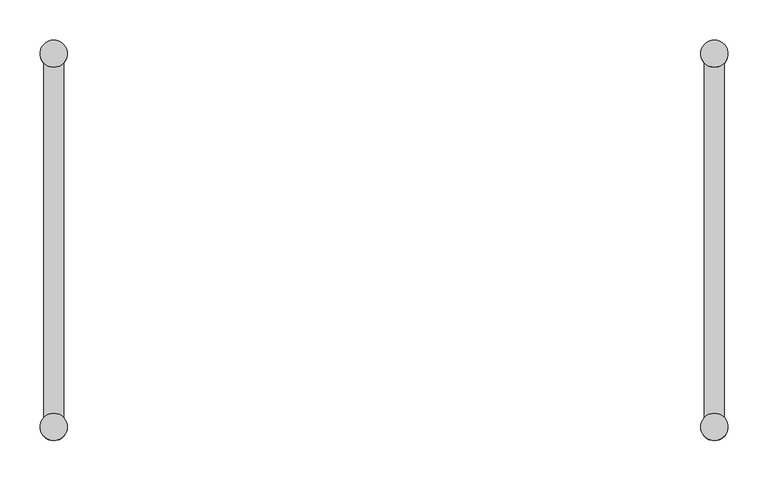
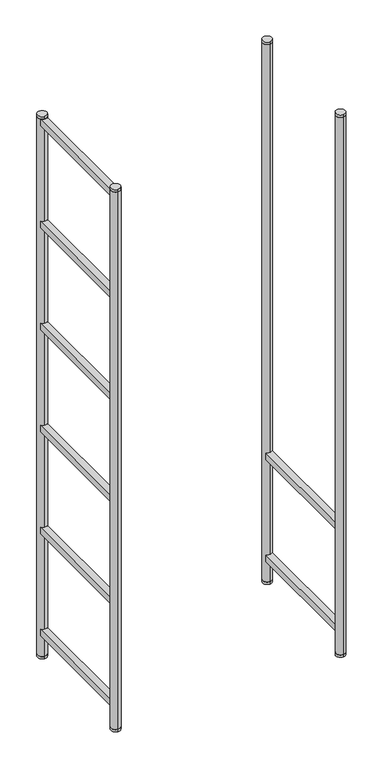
"""IFC4 building model written with IfcOpenShell, lengths in millimetres: furniture geometry, MAKR_TEMPLATE_800mmL : MAKR_TEMPLATE_800mmL."""

from ifc_helpers import new_model, si_unit, point, frame, frame_2d, origin, origin_with_axes, place, context, project, spatial, polyline, circle_curve, trimmed, segment, composite_curve, outline, extrude, source, transform, mapped, element, save


def furniture_79b718d3(model_context):
    return source(origin(), model_context, "Body", "SweptSolid", [
        extrude(outline(composite_curve([segment(polyline([(425.0, 221.4782814), (425.0, -221.4782814)]), True, "CONTINUOUS"), segment(trimmed(circle_curve(frame_2d((412.5, -233.0)), 17.0), [point((425.0, -221.4782814))], [point((400.0, -221.4782814))], True, "CARTESIAN"), True, "CONTINUOUS"), segment(polyline([(400.0, -221.4782814), (400.0, 221.4782814)]), True, "CONTINUOUS"), segment(trimmed(circle_curve(frame_2d((412.5, 233.0)), 17.0), [point((400.0, 221.4782814))], [point((425.0, 221.4782814))], True, "CARTESIAN"), True, "CONTINUOUS")], self_intersect=False)), frame((0.0, 0.0, 484.0), z_axis=(0.0, 0.0, 1.0), x_axis=(1.0, 0.0, 0.0)), (0.0, 0.0, 1.0), 25.0),
        extrude(outline(composite_curve([segment(polyline([(425.0, 221.4782814), (425.0, -221.4782814)]), True, "CONTINUOUS"), segment(trimmed(circle_curve(frame_2d((412.5, -233.0)), 17.0), [point((425.0, -221.4782814))], [point((400.0, -221.4782814))], True, "CARTESIAN"), True, "CONTINUOUS"), segment(polyline([(400.0, -221.4782814), (400.0, 221.4782814)]), True, "CONTINUOUS"), segment(trimmed(circle_curve(frame_2d((412.5, 233.0)), 17.0), [point((400.0, 221.4782814))], [point((425.0, 221.4782814))], True, "CARTESIAN"), True, "CONTINUOUS")], self_intersect=False)), frame((0.0, 0.0, 89.0), z_axis=(0.0, 0.0, 1.0), x_axis=(1.0, 0.0, 0.0)), (0.0, 0.0, 1.0), 25.0),
        extrude(outline(composite_curve([segment(trimmed(circle_curve(frame_2d((412.5, -233.0)), 17.0), [point((412.5, -216.0))], [point((412.5, -250.0))], False, "CARTESIAN"), True, "CONTINUOUS"), segment(trimmed(circle_curve(frame_2d((412.5, -233.0)), 17.0), [point((412.5, -250.0))], [point((412.5, -216.0))], False, "CARTESIAN"), True, "CONTINUOUS")], self_intersect=False)), frame((0.0, 0.0, 2091.0), z_axis=(0.0, 0.0, 1.0), x_axis=(1.0, 0.0, 0.0)), (0.0, 0.0, 1.0), 9.0),
        extrude(outline(composite_curve([segment(trimmed(circle_curve(frame_2d((412.5, -233.0)), 17.0), [point((412.5, -216.0))], [point((412.5, -250.0))], False, "CARTESIAN"), True, "CONTINUOUS"), segment(trimmed(circle_curve(frame_2d((412.5, -233.0)), 17.0), [point((412.5, -250.0))], [point((412.5, -216.0))], False, "CARTESIAN"), True, "CONTINUOUS")], self_intersect=False)), origin_with_axes(), (0.0, 0.0, 1.0), 9.0),
        extrude(outline(composite_curve([segment(trimmed(circle_curve(frame_2d((412.5, -233.0)), 17.0), [point((412.5, -216.0))], [point((412.5, -250.0))], False, "CARTESIAN"), True, "CONTINUOUS"), segment(trimmed(circle_curve(frame_2d((412.5, -233.0)), 17.0), [point((412.5, -250.0))], [point((412.5, -216.0))], False, "CARTESIAN"), True, "CONTINUOUS")], self_intersect=False)), frame((0.0, 0.0, 9.0), z_axis=(0.0, 0.0, 1.0), x_axis=(1.0, 0.0, 0.0)), (0.0, 0.0, 1.0), 2082.0),
        extrude(outline(composite_curve([segment(trimmed(circle_curve(frame_2d((412.5, 233.0)), 17.0), [point((412.5, 216.0))], [point((412.5, 250.0))], False, "CARTESIAN"), True, "CONTINUOUS"), segment(trimmed(circle_curve(frame_2d((412.5, 233.0)), 17.0), [point((412.5, 250.0))], [point((412.5, 216.0))], False, "CARTESIAN"), True, "CONTINUOUS")], self_intersect=False)), frame((0.0, 0.0, 2091.0), z_axis=(0.0, 0.0, 1.0), x_axis=(1.0, 0.0, 0.0)), (0.0, 0.0, 1.0), 9.0),
        extrude(outline(composite_curve([segment(trimmed(circle_curve(frame_2d((412.5, 233.0)), 17.0), [point((412.5, 216.0))], [point((412.5, 250.0))], False, "CARTESIAN"), True, "CONTINUOUS"), segment(trimmed(circle_curve(frame_2d((412.5, 233.0)), 17.0), [point((412.5, 250.0))], [point((412.5, 216.0))], False, "CARTESIAN"), True, "CONTINUOUS")], self_intersect=False)), origin_with_axes(), (0.0, 0.0, 1.0), 9.0),
        extrude(outline(composite_curve([segment(trimmed(circle_curve(frame_2d((412.5, 233.0)), 17.0), [point((412.5, 216.0))], [point((412.5, 250.0))], False, "CARTESIAN"), True, "CONTINUOUS"), segment(trimmed(circle_curve(frame_2d((412.5, 233.0)), 17.0), [point((412.5, 250.0))], [point((412.5, 216.0))], False, "CARTESIAN"), True, "CONTINUOUS")], self_intersect=False)), frame((0.0, 0.0, 9.0), z_axis=(0.0, 0.0, 1.0), x_axis=(1.0, 0.0, 0.0)), (0.0, 0.0, 1.0), 2082.0),
        extrude(outline(composite_curve([segment(trimmed(circle_curve(frame_2d((-412.5, 233.0)), 17.0), [point((-425.0, 221.4782814))], [point((-400.0, 221.4782814))], True, "CARTESIAN"), True, "CONTINUOUS"), segment(polyline([(-400.0, 221.4782814), (-400.0, -221.4782814)]), True, "CONTINUOUS"), segment(trimmed(circle_curve(frame_2d((-412.5, -233.0)), 17.0), [point((-400.0, -221.4782814))], [point((-425.0, -221.4782814))], True, "CARTESIAN"), True, "CONTINUOUS"), segment(polyline([(-425.0, -221.4782814), (-425.0, 221.4782814)]), True, "CONTINUOUS")], self_intersect=False)), frame((0.0, 0.0, 2064.0), z_axis=(0.0, 0.0, 1.0), x_axis=(1.0, 0.0, 0.0)), (0.0, 0.0, 1.0), 25.0),
        extrude(outline(composite_curve([segment(trimmed(circle_curve(frame_2d((-412.5, 233.0)), 17.0), [point((-425.0, 221.4782814))], [point((-400.0, 221.4782814))], True, "CARTESIAN"), True, "CONTINUOUS"), segment(polyline([(-400.0, 221.4782814), (-400.0, -221.4782814)]), True, "CONTINUOUS"), segment(trimmed(circle_curve(frame_2d((-412.5, -233.0)), 17.0), [point((-400.0, -221.4782814))], [point((-425.0, -221.4782814))], True, "CARTESIAN"), True, "CONTINUOUS"), segment(polyline([(-425.0, -221.4782814), (-425.0, 221.4782814)]), True, "CONTINUOUS")], self_intersect=False)), frame((0.0, 0.0, 1669.0), z_axis=(0.0, 0.0, 1.0), x_axis=(1.0, 0.0, 0.0)), (0.0, 0.0, 1.0), 25.0),
        extrude(outline(composite_curve([segment(trimmed(circle_curve(frame_2d((-412.5, 233.0)), 17.0), [point((-425.0, 221.4782814))], [point((-400.0, 221.4782814))], True, "CARTESIAN"), True, "CONTINUOUS"), segment(polyline([(-400.0, 221.4782814), (-400.0, -221.4782814)]), True, "CONTINUOUS"), segment(trimmed(circle_curve(frame_2d((-412.5, -233.0)), 17.0), [point((-400.0, -221.4782814))], [point((-425.0, -221.4782814))], True, "CARTESIAN"), True, "CONTINUOUS"), segment(polyline([(-425.0, -221.4782814), (-425.0, 221.4782814)]), True, "CONTINUOUS")], self_intersect=False)), frame((0.0, 0.0, 1274.0), z_axis=(0.0, 0.0, 1.0), x_axis=(1.0, 0.0, 0.0)), (0.0, 0.0, 1.0), 25.0),
        extrude(outline(composite_curve([segment(trimmed(circle_curve(frame_2d((-412.5, 233.0)), 17.0), [point((-425.0, 221.4782814))], [point((-400.0, 221.4782814))], True, "CARTESIAN"), True, "CONTINUOUS"), segment(polyline([(-400.0, 221.4782814), (-400.0, -221.4782814)]), True, "CONTINUOUS"), segment(trimmed(circle_curve(frame_2d((-412.5, -233.0)), 17.0), [point((-400.0, -221.4782814))], [point((-425.0, -221.4782814))], True, "CARTESIAN"), True, "CONTINUOUS"), segment(polyline([(-425.0, -221.4782814), (-425.0, 221.4782814)]), True, "CONTINUOUS")], self_intersect=False)), frame((0.0, 0.0, 879.0), z_axis=(0.0, 0.0, 1.0), x_axis=(1.0, 0.0, 0.0)), (0.0, 0.0, 1.0), 25.0),
        extrude(outline(composite_curve([segment(trimmed(circle_curve(frame_2d((-412.5, 233.0)), 17.0), [point((-425.0, 221.4782814))], [point((-400.0, 221.4782814))], True, "CARTESIAN"), True, "CONTINUOUS"), segment(polyline([(-400.0, 221.4782814), (-400.0, -221.4782814)]), True, "CONTINUOUS"), segment(trimmed(circle_curve(frame_2d((-412.5, -233.0)), 17.0), [point((-400.0, -221.4782814))], [point((-425.0, -221.4782814))], True, "CARTESIAN"), True, "CONTINUOUS"), segment(polyline([(-425.0, -221.4782814), (-425.0, 221.4782814)]), True, "CONTINUOUS")], self_intersect=False)), frame((0.0, 0.0, 484.0), z_axis=(0.0, 0.0, 1.0), x_axis=(1.0, 0.0, 0.0)), (0.0, 0.0, 1.0), 25.0),
        extrude(outline(composite_curve([segment(trimmed(circle_curve(frame_2d((-412.5, 233.0)), 17.0), [point((-425.0, 221.4782814))], [point((-400.0, 221.4782814))], True, "CARTESIAN"), True, "CONTINUOUS"), segment(polyline([(-400.0, 221.4782814), (-400.0, -221.4782814)]), True, "CONTINUOUS"), segment(trimmed(circle_curve(frame_2d((-412.5, -233.0)), 17.0), [point((-400.0, -221.4782814))], [point((-425.0, -221.4782814))], True, "CARTESIAN"), True, "CONTINUOUS"), segment(polyline([(-425.0, -221.4782814), (-425.0, 221.4782814)]), True, "CONTINUOUS")], self_intersect=False)), frame((0.0, 0.0, 89.0), z_axis=(0.0, 0.0, 1.0), x_axis=(1.0, 0.0, 0.0)), (0.0, 0.0, 1.0), 25.0),
        extrude(outline(composite_curve([segment(trimmed(circle_curve(frame_2d((-412.5, -233.0)), 17.0), [point((-412.5, -216.0))], [point((-412.5, -250.0))], False, "CARTESIAN"), True, "CONTINUOUS"), segment(trimmed(circle_curve(frame_2d((-412.5, -233.0)), 17.0), [point((-412.5, -250.0))], [point((-412.5, -216.0))], False, "CARTESIAN"), True, "CONTINUOUS")], self_intersect=False)), frame((0.0, 0.0, 2091.0), z_axis=(0.0, 0.0, 1.0), x_axis=(1.0, 0.0, 0.0)), (0.0, 0.0, 1.0), 9.0),
        extrude(outline(composite_curve([segment(trimmed(circle_curve(frame_2d((-412.5, -233.0)), 17.0), [point((-412.5, -216.0))], [point((-412.5, -250.0))], False, "CARTESIAN"), True, "CONTINUOUS"), segment(trimmed(circle_curve(frame_2d((-412.5, -233.0)), 17.0), [point((-412.5, -250.0))], [point((-412.5, -216.0))], False, "CARTESIAN"), True, "CONTINUOUS")], self_intersect=False)), origin_with_axes(), (0.0, 0.0, 1.0), 9.0),
        extrude(outline(composite_curve([segment(trimmed(circle_curve(frame_2d((-412.5, -233.0)), 17.0), [point((-412.5, -216.0))], [point((-412.5, -250.0))], False, "CARTESIAN"), True, "CONTINUOUS"), segment(trimmed(circle_curve(frame_2d((-412.5, -233.0)), 17.0), [point((-412.5, -250.0))], [point((-412.5, -216.0))], False, "CARTESIAN"), True, "CONTINUOUS")], self_intersect=False)), frame((0.0, 0.0, 9.0), z_axis=(0.0, 0.0, 1.0), x_axis=(1.0, 0.0, 0.0)), (0.0, 0.0, 1.0), 2082.0),
        extrude(outline(composite_curve([segment(trimmed(circle_curve(frame_2d((-412.5, 233.0)), 17.0), [point((-412.5, 216.0))], [point((-412.5, 250.0))], False, "CARTESIAN"), True, "CONTINUOUS"), segment(trimmed(circle_curve(frame_2d((-412.5, 233.0)), 17.0), [point((-412.5, 250.0))], [point((-412.5, 216.0))], False, "CARTESIAN"), True, "CONTINUOUS")], self_intersect=False)), frame((0.0, 0.0, 2091.0), z_axis=(0.0, 0.0, 1.0), x_axis=(1.0, 0.0, 0.0)), (0.0, 0.0, 1.0), 9.0),
        extrude(outline(composite_curve([segment(trimmed(circle_curve(frame_2d((-412.5, 233.0)), 17.0), [point((-412.5, 216.0))], [point((-412.5, 250.0))], False, "CARTESIAN"), True, "CONTINUOUS"), segment(trimmed(circle_curve(frame_2d((-412.5, 233.0)), 17.0), [point((-412.5, 250.0))], [point((-412.5, 216.0))], False, "CARTESIAN"), True, "CONTINUOUS")], self_intersect=False)), origin_with_axes(), (0.0, 0.0, 1.0), 9.0),
        extrude(outline(composite_curve([segment(trimmed(circle_curve(frame_2d((-412.5, 233.0)), 17.0), [point((-412.5, 216.0))], [point((-412.5, 250.0))], False, "CARTESIAN"), True, "CONTINUOUS"), segment(trimmed(circle_curve(frame_2d((-412.5, 233.0)), 17.0), [point((-412.5, 250.0))], [point((-412.5, 216.0))], False, "CARTESIAN"), True, "CONTINUOUS")], self_intersect=False)), frame((0.0, 0.0, 9.0), z_axis=(0.0, 0.0, 1.0), x_axis=(1.0, 0.0, 0.0)), (0.0, 0.0, 1.0), 2082.0),
    ])


if __name__ == "__main__":
    model = new_model("IFC4")
    model_context = context("Model", 3, world=origin())
    ifc_project = project(units=[si_unit("LENGTHUNIT", "METRE", prefix="MILLI")], contexts=[model_context])
    site = spatial("IfcSite", under=ifc_project)
    building = spatial("IfcBuilding", under=site)
    placement = place(None, origin())
    furniture_shape = furniture_79b718d3(model_context)
    element("IfcFurniture", 1, ObjectType="MAKR_TEMPLATE_800mmL : MAKR_TEMPLATE_800mmL", at=placement, inside=building, context=model_context, shape_type="MappedRepresentation", body=[
        mapped(furniture_shape, transform((0.0, 0.0, 0.0), x_axis=(1.0, 0.0, 0.0), y_axis=(0.0, 1.0, 0.0), z_axis=(0.0, 0.0, 1.0))),
    ])
    save(model, "model.ifc")
